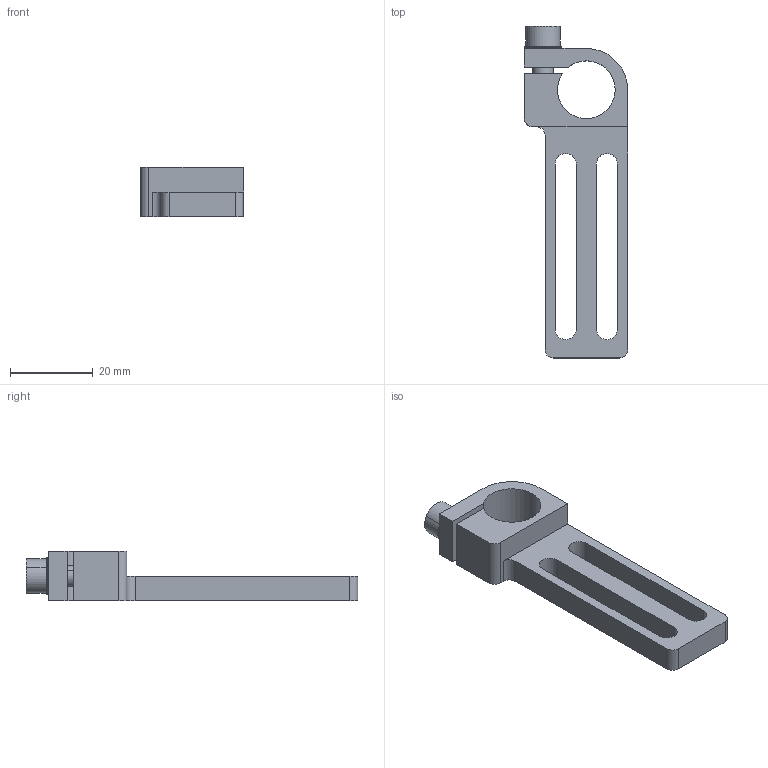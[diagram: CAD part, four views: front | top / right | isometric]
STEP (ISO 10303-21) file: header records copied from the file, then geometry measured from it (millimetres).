
FILE_DESCRIPTION (( 'STEP AP214' ), '1' );
FILE_NAME ('SMBE1-1440.STEP', '2024-08-13T06:09:36', ( '' ), ( '' ), 'SwSTEP 2.0', 'SolidWorks 2022', '' );
FILE_SCHEMA (( 'AUTOMOTIVE_DESIGN' ));
Length unit declared in the file: millimetre
Products named in the file (5): PTS-M5.STEP; PTC-M5L14.STEP; SMBE1-1440.STEP; SMBE1-1440-T.STEP; SMBE1-1440
Assembly tree (4 placements, depth 3):
  SMBE1-1440
    SMBE1-1440-T.STEP
      SMBE1-1440.STEP
      PTC-M5L14.STEP
      PTS-M5.STEP
Bounding box: 25 x 80.45 x 12 mm (x, y, z)
Volume: 7664.4 mm3; surface area: 6254.6 mm2
Topology: 3 solids, 3 shells, 217 faces, 624 edges, 414 vertices
Faces by surface type: plane 187, cylinder 24, cone 6
Entity records: 7360 total; most frequent: DIRECTION 1288, CARTESIAN_POINT 1263, ORIENTED_EDGE 1248, EDGE_CURVE 624, AXIS2_PLACEMENT_3D 439, VERTEX_POINT 414, VECTOR 410, LINE 410
